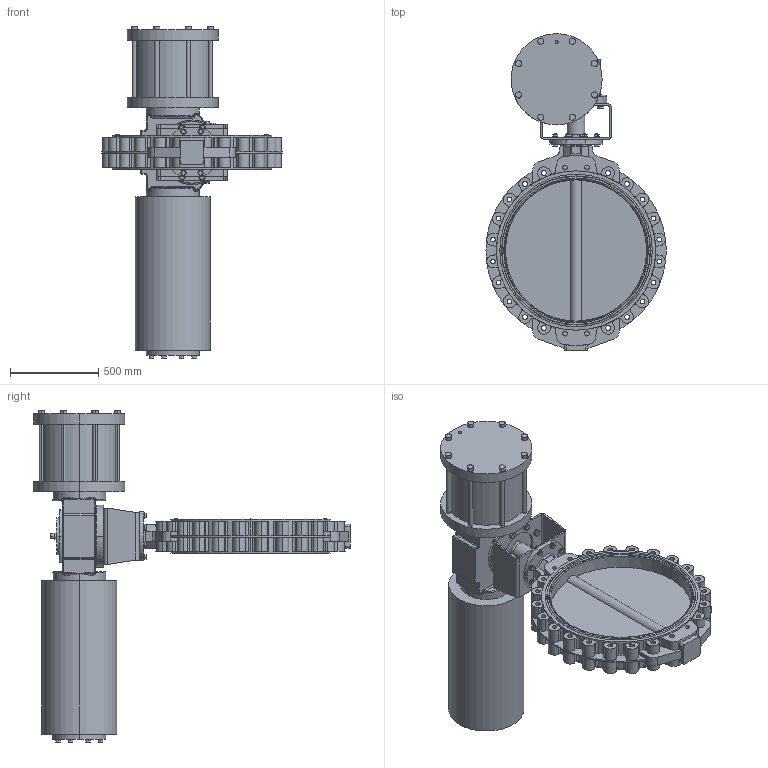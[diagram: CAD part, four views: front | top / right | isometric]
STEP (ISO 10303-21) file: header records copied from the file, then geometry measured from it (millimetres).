
FILE_DESCRIPTION (( 'STEP AP214' ), '1' );
FILE_NAME ('67395.step', '2020-10-23T12:39:37', ( '' ), ( '' ), 'SwSTEP 2.0', 'SolidWorks 2019', '' );
FILE_SCHEMA (( 'AUTOMOTIVE_DESIGN' ));
Length unit declared in the file: millimetre
Products named in the file (11): U-Scheibe DIN 125 A_M16; 67395; 6kt-Mu DIN 934_M16; Passfeder DIN 6885 A_28_16x140; U-Scheibe DIN 125 A_M20; 6kt-Schr DIN 933_M16x60; MB F30-F25_MB F30-F25 (1.4301); SY01F30-450 SR6; TL20-0800_M01; 67396; 6kt-Schr DIN 933_M20x40
Assembly tree (53 placements, depth 2):
  67395
    TL20-0800_M01
    SY01F30-450 SR6
    U-Scheibe DIN 125 A_M16  x16
    6kt-Schr DIN 933_M16x60  x8
    MB F30-F25_MB F30-F25 (1.4301)
    6kt-Mu DIN 934_M16  x8
    6kt-Schr DIN 933_M20x40  x8
    U-Scheibe DIN 125 A_M20  x8
    67396
    Passfeder DIN 6885 A_28_16x140
Bounding box: 1019.51 x 1792 x 1880 mm (x, y, z)
Volume: 311782448.1 mm3; surface area: 7968433.3 mm2
Topology: 53 solids, 53 shells, 1834 faces, 4358 edges, 2687 vertices
Faces by surface type: plane 750, cylinder 710, cone 239, bspline 79, torus 56
Entity records: 43343 total; most frequent: CARTESIAN_POINT 12208, DIRECTION 6454, ORIENTED_EDGE 5896, EDGE_CURVE 2948, AXIS2_PLACEMENT_3D 2579, VERTEX_POINT 1867, CIRCLE 1432, EDGE_LOOP 1355
